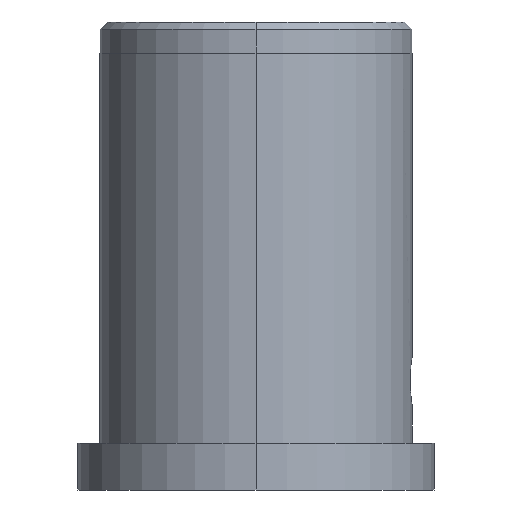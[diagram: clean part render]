
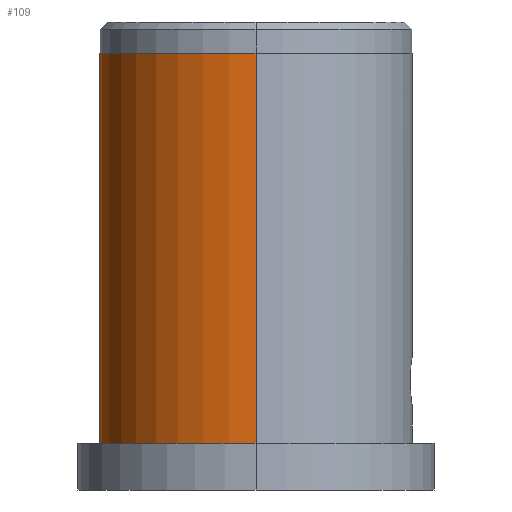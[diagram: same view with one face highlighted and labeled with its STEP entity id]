
A CAD part, left-side view. The second image highlights one B-rep face of the part: STEP entity #109.
In plain terms, the highlighted cylindrical face has radius 15.881 mm (diameter 31.763 mm), a partial arc.
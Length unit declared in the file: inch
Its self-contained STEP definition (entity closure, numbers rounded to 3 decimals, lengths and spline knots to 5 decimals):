
#13 = ORIENTED_EDGE ( 'NONE', *, *, #193, .T. ) ;
#61 = VERTEX_POINT ( 'NONE', #159 ) ;
#75 = CARTESIAN_POINT ( 'NONE',  ( -0.62525, 0., 0. ) ) ;
#91 = CARTESIAN_POINT ( 'NONE',  ( -0.62525, 0., 0.187 ) ) ;
#109 = ADVANCED_FACE ( 'NONE', ( #695 ), #508, .T. ) ;
#124 = CIRCLE ( 'NONE', #672, 0.62525 ) ;
#126 = CARTESIAN_POINT ( 'NONE',  ( 0., 0., 0.187 ) ) ;
#140 = CARTESIAN_POINT ( 'NONE',  ( -0.62525, 0., 1.75 ) ) ;
#159 = CARTESIAN_POINT ( 'NONE',  ( 0.62525, 0., 1.75 ) ) ;
#193 = EDGE_CURVE ( 'NONE', #395, #61, #124, .T. ) ;
#196 = CARTESIAN_POINT ( 'NONE',  ( 0.62525, 0., 0.187 ) ) ;
#235 = DIRECTION ( 'NONE',  ( 0., 0., -1. ) ) ;
#243 = CARTESIAN_POINT ( 'NONE',  ( 0., 0., 1.75 ) ) ;
#251 = ORIENTED_EDGE ( 'NONE', *, *, #379, .F. ) ;
#339 = CARTESIAN_POINT ( 'NONE',  ( 0., 0., 0. ) ) ;
#365 = ORIENTED_EDGE ( 'NONE', *, *, #554, .T. ) ;
#379 = EDGE_CURVE ( 'NONE', #395, #530, #611, .T. ) ;
#395 = VERTEX_POINT ( 'NONE', #140 ) ;
#407 = DIRECTION ( 'NONE',  ( 0., 0., -1. ) ) ;
#424 = DIRECTION ( 'NONE',  ( -1., 0., 0. ) ) ;
#467 = CIRCLE ( 'NONE', #490, 0.62525 ) ;
#490 = AXIS2_PLACEMENT_3D ( 'NONE', #126, #577, #647 ) ;
#508 = CYLINDRICAL_SURFACE ( 'NONE', #850, 0.62525 ) ;
#530 = VERTEX_POINT ( 'NONE', #91 ) ;
#554 = EDGE_CURVE ( 'NONE', #61, #798, #684, .T. ) ;
#577 = DIRECTION ( 'NONE',  ( 0., 0., -1. ) ) ;
#581 = EDGE_LOOP ( 'NONE', ( #13, #365, #660, #251 ) ) ;
#597 = VECTOR ( 'NONE', #235, 39.37008 ) ;
#611 = LINE ( 'NONE', #75, #642 ) ;
#642 = VECTOR ( 'NONE', #407, 39.37008 ) ;
#647 = DIRECTION ( 'NONE',  ( -1., 0., 0. ) ) ;
#660 = ORIENTED_EDGE ( 'NONE', *, *, #813, .F. ) ;
#672 = AXIS2_PLACEMENT_3D ( 'NONE', #243, #687, #424 ) ;
#684 = LINE ( 'NONE', #751, #597 ) ;
#687 = DIRECTION ( 'NONE',  ( 0., 0., -1. ) ) ;
#695 = FACE_OUTER_BOUND ( 'NONE', #581, .T. ) ;
#738 = DIRECTION ( 'NONE',  ( -1., 0., 0. ) ) ;
#751 = CARTESIAN_POINT ( 'NONE',  ( 0.62525, 0., 0. ) ) ;
#798 = VERTEX_POINT ( 'NONE', #196 ) ;
#801 = DIRECTION ( 'NONE',  ( 0., 0., -1. ) ) ;
#813 = EDGE_CURVE ( 'NONE', #530, #798, #467, .T. ) ;
#850 = AXIS2_PLACEMENT_3D ( 'NONE', #339, #801, #738 ) ;
